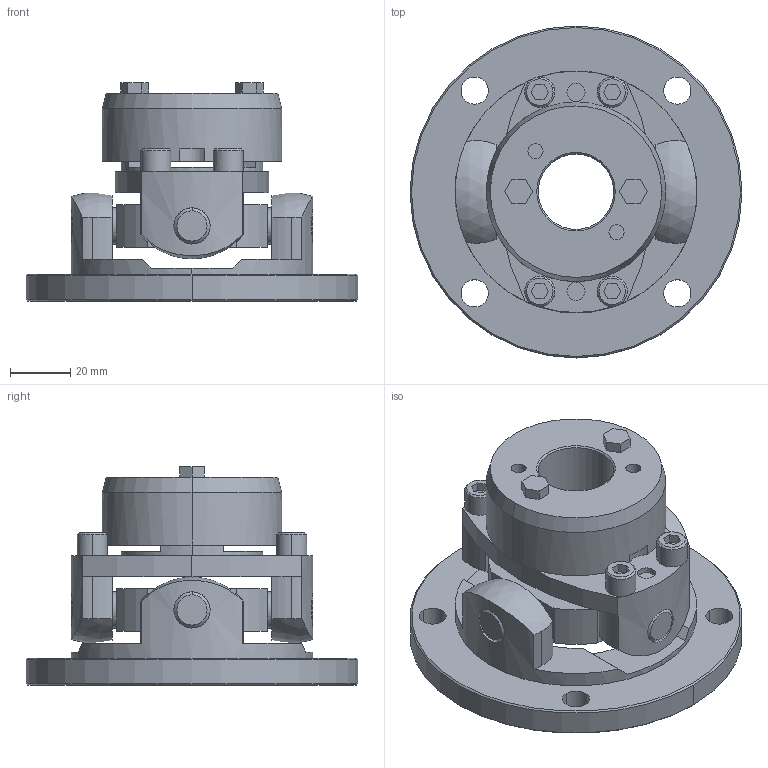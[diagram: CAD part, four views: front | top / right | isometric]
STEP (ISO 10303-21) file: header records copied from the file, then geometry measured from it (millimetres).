
FILE_DESCRIPTION((''),'2;1');
FILE_NAME('UCNF-80T7-25.stp','2011-09-17T16:28:19',(''),(''),'AutoCAD STEP 2000i','AutoCAD 2000i',', , ');
FILE_SCHEMA(('CONFIG_CONTROL_DESIGN'));
Length unit declared in the file: millimetre
Products named in the file (9): UCNF-80T7-24; 忣兜1; UCN80T7-T024; UCN80T7-T022; UCN80T7-T019; UCNF-8002; UCN80T7-T017-1; UCN80T7-T017; UCN80-SEN
Assembly tree (8 placements, depth 2):
  UCNF-80T7-24
    忣兜1
    UCN80T7-T024
    UCN80T7-T022
    UCN80T7-T019
    UCNF-8002
    UCN80T7-T017-1
    UCN80T7-T017
    UCN80-SEN
Bounding box: 110 x 110 x 72.5 mm (x, y, z)
Volume: 201600.2 mm3; surface area: 56031.8 mm2
Topology: 1 solids, 1 shells, 272 faces, 682 edges, 444 vertices
Faces by surface type: plane 124, cylinder 106, cone 38, sphere 4
Entity records: 8835 total; most frequent: CARTESIAN_POINT 1811, DIRECTION 1534, ORIENTED_EDGE 1364, EDGE_CURVE 682, AXIS2_PLACEMENT_3D 587, VERTEX_POINT 444, VECTOR 360, LINE 360
